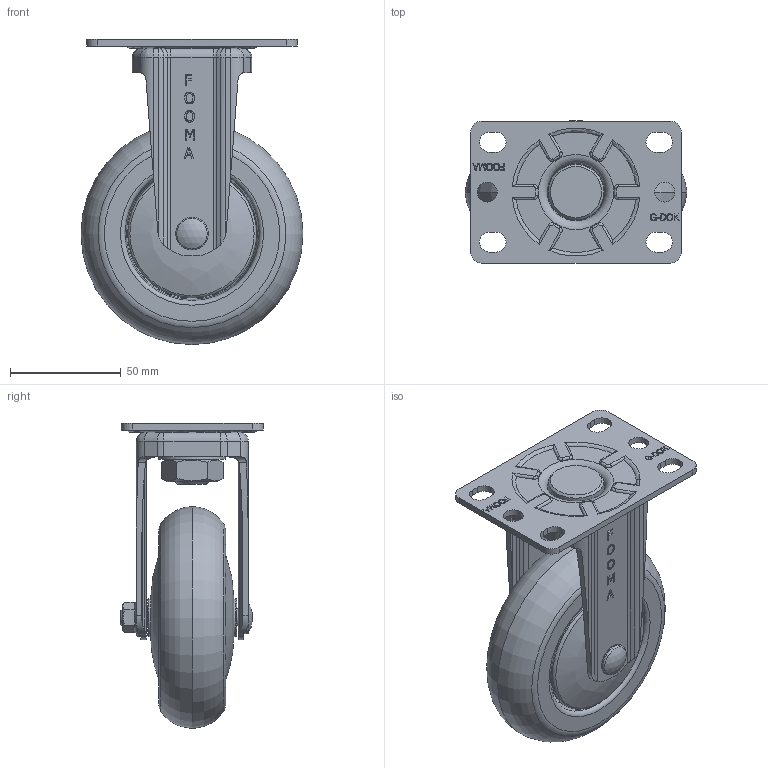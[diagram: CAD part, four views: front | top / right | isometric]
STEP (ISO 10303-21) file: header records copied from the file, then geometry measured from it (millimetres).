
FILE_DESCRIPTION(/* description */ (''),/* implementation_level */ '2;1');
FILE_NAME(/* name */ 'E:\홈피용도면\\X2\C2E0ADDCD648D398C774C9C0C6A9B3C4BA74\X0\\무소음캐스터\20160225-\X2\BB34C18CC74CCE90C2A4D130\X0\\PL-100-ARF.stp',/* time_stamp */ '2016-02-25T22:20:04+09:00',/* author */ ('장용하'),/* organization */ (''),/* preprocessor_version */ 'ST-DEVELOPER v15.6',/* originating_system */ 'Autodesk Inventor 2015',/* authorisation */ '');
FILE_SCHEMA (('AUTOMOTIVE_DESIGN { 1 0 10303 214 3 1 1 }'));
Length unit declared in the file: millimetre
Products named in the file (1): PL-100-ARF
Bounding box: 100 x 64.25 x 137.5 mm (x, y, z)
Volume: 236943.1 mm3; surface area: 76436.9 mm2
Topology: 2 solids, 2 shells, 1376 faces, 3713 edges, 2394 vertices
Faces by surface type: plane 909, cylinder 220, bspline 113, torus 89, cone 44, sphere 1
Full cylindrical faces by diameter (mm): 8 x2, 9 x2, 14.6 x1, 16 x2, 17 x1, 18 x1, 22 x2, 25 x1, 30 x1
Entity records: 44147 total; most frequent: CARTESIAN_POINT 10278, ORIENTED_EDGE 7228, DIRECTION 6606, EDGE_CURVE 3611, LINE 2668, VECTOR 2668, VERTEX_POINT 2379, AXIS2_PLACEMENT_3D 1969
